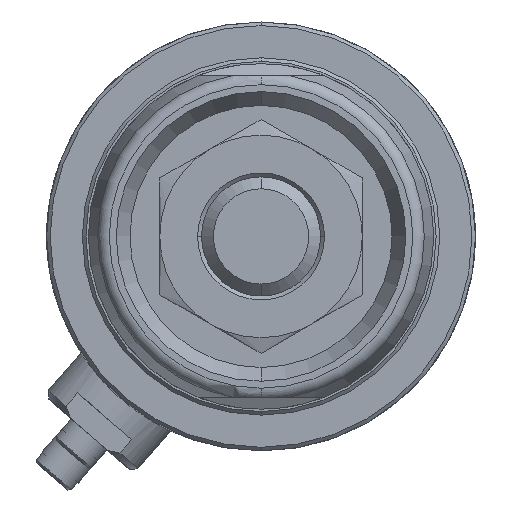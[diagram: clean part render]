
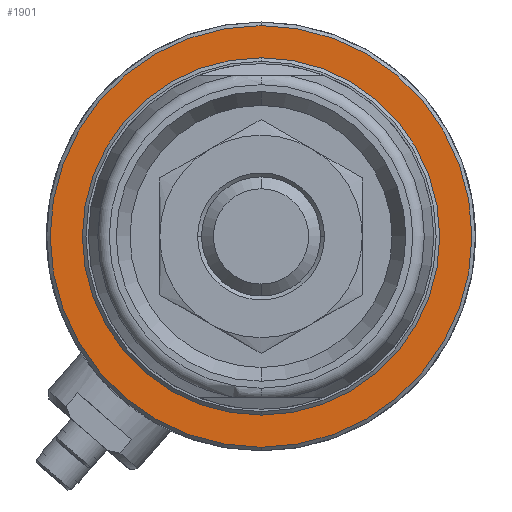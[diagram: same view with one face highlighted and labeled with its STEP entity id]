
A CAD part, front view. The second image highlights one B-rep face of the part: STEP entity #1901.
In plain terms, the highlighted planar face has unit normal (0, -1, 0).
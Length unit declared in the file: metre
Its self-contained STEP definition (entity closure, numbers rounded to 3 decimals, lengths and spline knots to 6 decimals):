
#1901=ADVANCED_FACE('',(#2521,#2522),#2523,.T.);
#2521=FACE_OUTER_BOUND('',#3703,.T.);
#2522=FACE_BOUND('',#3704,.T.);
#2523=PLANE('',#3705);
#3703=EDGE_LOOP('',(#5259,#5260));
#3704=EDGE_LOOP('',(#5261,#5262));
#3705=AXIS2_PLACEMENT_3D('',#5263,#5264,#5265);
#5259=ORIENTED_EDGE('',*,*,#8968,.T.);
#5260=ORIENTED_EDGE('',*,*,#9047,.T.);
#5261=ORIENTED_EDGE('',*,*,#8999,.F.);
#5262=ORIENTED_EDGE('',*,*,#9048,.F.);
#5263=CARTESIAN_POINT('',(0.,0.004,0.018));
#5264=DIRECTION('',(0.,-1.0,0.));
#5265=DIRECTION('',(0.0,0.,-1.0));
#8968=EDGE_CURVE('',#10173,#10170,#10174,.T.);
#8999=EDGE_CURVE('',#10229,#10231,#10232,.T.);
#9047=EDGE_CURVE('',#10170,#10173,#10303,.T.);
#9048=EDGE_CURVE('',#10231,#10229,#10304,.T.);
#10170=VERTEX_POINT('',#12084);
#10173=VERTEX_POINT('',#12088);
#10174=CIRCLE('',#12089,0.0177);
#10229=VERTEX_POINT('',#12178);
#10231=VERTEX_POINT('',#12181);
#10232=CIRCLE('',#12182,0.015);
#10303=CIRCLE('',#12489,0.0177);
#10304=CIRCLE('',#12490,0.015);
#12084=CARTESIAN_POINT('',(0.,0.004,0.0177));
#12088=CARTESIAN_POINT('',(0.,0.004,-0.0177));
#12089=AXIS2_PLACEMENT_3D('',#15380,#15381,#15382);
#12178=CARTESIAN_POINT('',(0.,0.004,-0.015));
#12181=CARTESIAN_POINT('',(0.,0.004,0.015));
#12182=AXIS2_PLACEMENT_3D('',#15436,#15437,#15438);
#12489=AXIS2_PLACEMENT_3D('',#15507,#15508,#15509);
#12490=AXIS2_PLACEMENT_3D('',#15510,#15511,#15512);
#15380=CARTESIAN_POINT('',(0.,0.004,0.));
#15381=DIRECTION('',(0.,-1.0,0.));
#15382=DIRECTION('',(0.,0.,-1.0));
#15436=CARTESIAN_POINT('',(0.,0.004,0.));
#15437=DIRECTION('',(0.,-1.0,0.));
#15438=DIRECTION('',(0.0,0.,-1.0));
#15507=CARTESIAN_POINT('',(0.,0.004,0.));
#15508=DIRECTION('',(0.,-1.0,0.));
#15509=DIRECTION('',(0.,0.,-1.0));
#15510=CARTESIAN_POINT('',(0.,0.004,0.));
#15511=DIRECTION('',(0.,-1.0,0.));
#15512=DIRECTION('',(0.0,0.,-1.0));
